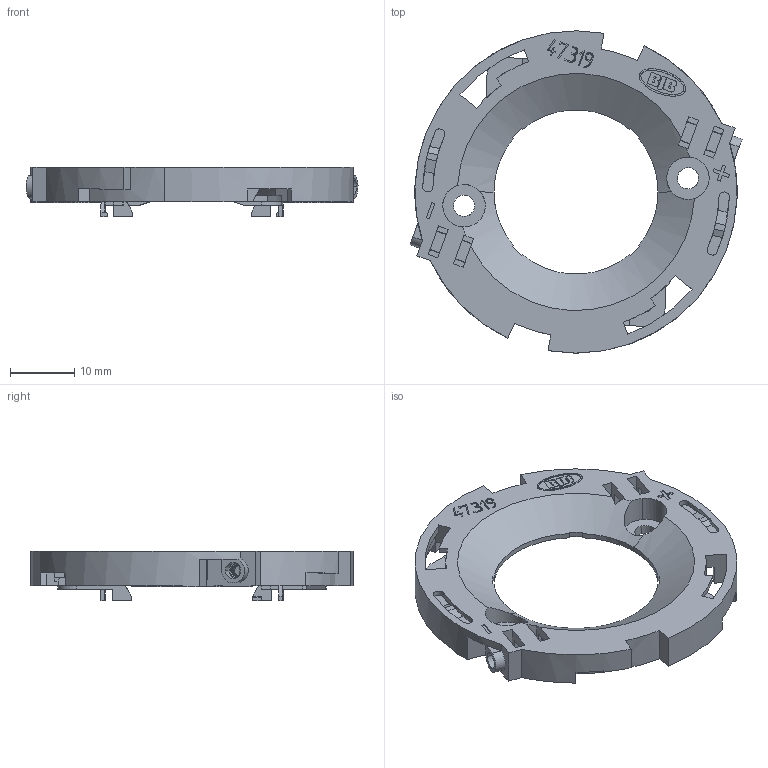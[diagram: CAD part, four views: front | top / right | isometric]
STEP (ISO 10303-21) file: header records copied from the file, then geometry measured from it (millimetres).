
FILE_DESCRIPTION(('CAx-IF Rec.Pracs.---Model Styling and Organization---1.2---2011-12-15','CAx-IF Rec.Pracs.---Geometric and Assembly Validation Properties---4.1---2014-06-16','CAx-IF Rec.Pracs.---PMI Polyline Presentation---2.0---2013-05-24'),'2;1');
FILE_NAME('01TYA5UY02.stp','2019-03-14T08:58:15+01:00',(''),(''),'STEP Interface 4.2 by CT CoreTechnologie','3D_Evolution4.2 by CT CoreTechnologie','');
FILE_SCHEMA(('AUTOMOTIVE_DESIGN { 1 0 10303 214 1 1 1 1 }'));
Length unit declared in the file: millimetre
Products named in the file (3): 01T-A5U-02; 01T-A5U-01; 01T-A5B-03
Assembly tree (3 placements, depth 2):
  01T-A5U-02
    01T-A5U-01
    01T-A5B-03  x2
Bounding box: 51.5 x 50 x 7.75 mm (x, y, z)
Volume: 3514.4 mm3; surface area: 6595.7 mm2
Topology: 5 solids, 5 shells, 696 faces, 1990 edges, 1320 vertices
Faces by surface type: plane 524, cylinder 114, bspline 58
Entity records: 27371 total; most frequent: CARTESIAN_POINT 5167, ORIENTED_EDGE 3690, DIRECTION 3350, EDGE_CURVE 1845, VECTOR 1432, LINE 1432, VERTEX_POINT 1224, AXIS2_PLACEMENT_3D 959
